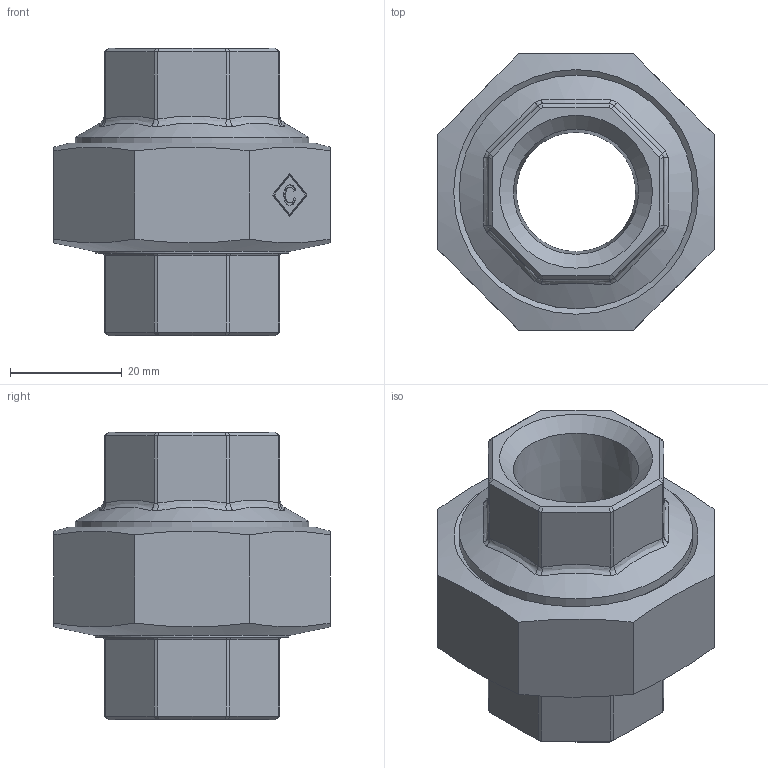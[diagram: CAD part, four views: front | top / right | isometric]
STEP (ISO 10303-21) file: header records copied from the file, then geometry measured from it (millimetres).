
FILE_DESCRIPTION((''),'2;1');
FILE_NAME('P:\Fastrack\53909_CRANE\Crane\Modified\Fig.256 Union\New 0.75 inch\256-0.75.stp','2009-09-18T09:11:55',('btaylor'),(''),'Autodesk Inventor 2008','Autodesk Inventor 2008','');
FILE_SCHEMA(('AUTOMOTIVE_DESIGN { 1 0 10303 214 1 1 1 1 }'));
Length unit declared in the file: millimetre
Products named in the file (1): 256-0.75
Bounding box: 49.53 x 49.53 x 51.62 mm (x, y, z)
Volume: 41984.2 mm3; surface area: 17014.9 mm2
Topology: 1 solids, 2 shells, 152 faces, 368 edges, 227 vertices
Faces by surface type: plane 61, bspline 36, cylinder 30, cone 25
Full cylindrical faces by diameter (mm): 26.9 x1, 34.67 x1, 35.052 x1, 37.85 x1, 41.91 x2
Entity records: 5551 total; most frequent: CARTESIAN_POINT 2405, ORIENTED_EDGE 684, DIRECTION 536, EDGE_CURVE 342, VERTEX_POINT 220, AXIS2_PLACEMENT_3D 205, EDGE_LOOP 182, FACE_OUTER_BOUND 152
